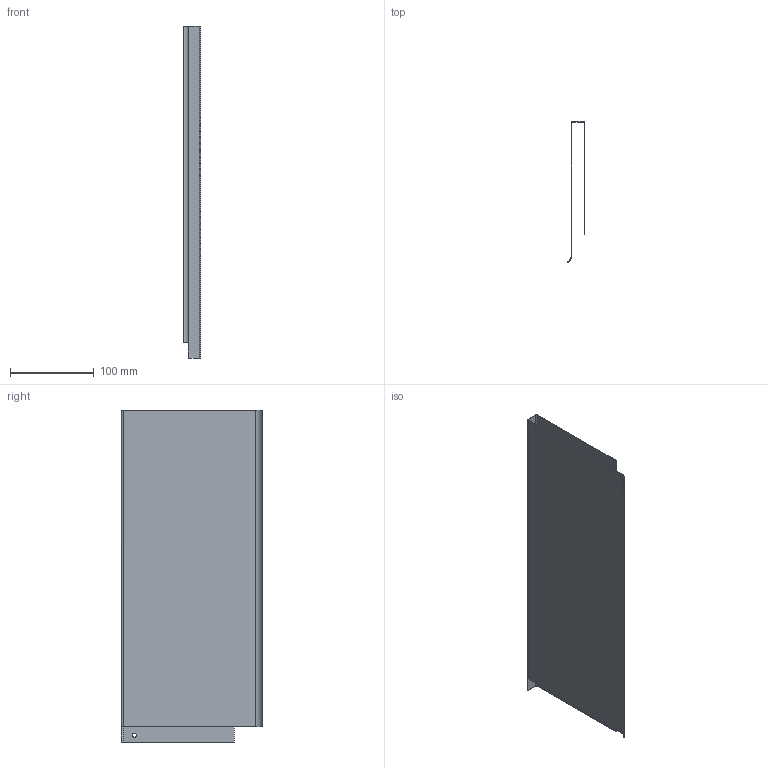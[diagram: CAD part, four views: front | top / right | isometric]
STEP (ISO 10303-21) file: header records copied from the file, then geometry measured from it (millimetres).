
FILE_DESCRIPTION (( 'STEP AP203' ), '1' );
FILE_NAME ('Nova Pro Duowing H186 HRW Classic rechts_NL400.step', '2014-02-14T11:56:48', ( 'test' ), ( '' ), 'SwSTEP 2.0', 'SolidWorks 2013', '' );
FILE_SCHEMA (( 'CONFIG_CONTROL_DESIGN' ));
Length unit declared in the file: millimetre
Products named in the file (1): Nova Pro Duowing H186 HRW Classic rechts_NL400
Bounding box: 20.72 x 169 x 397.5 mm (x, y, z)
Volume: 61859.8 mm3; surface area: 248163.7 mm2
Topology: 1 solids, 1 shells, 29 faces, 66 edges, 39 vertices
Faces by surface type: plane 20, cylinder 9
Entity records: 880 total; most frequent: DIRECTION 145, CARTESIAN_POINT 135, ORIENTED_EDGE 132, EDGE_CURVE 66, AXIS2_PLACEMENT_3D 49, LINE 47, VECTOR 47, VERTEX_POINT 39
